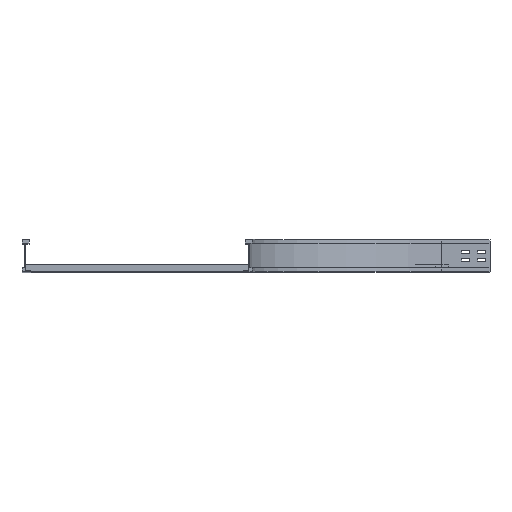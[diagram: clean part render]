
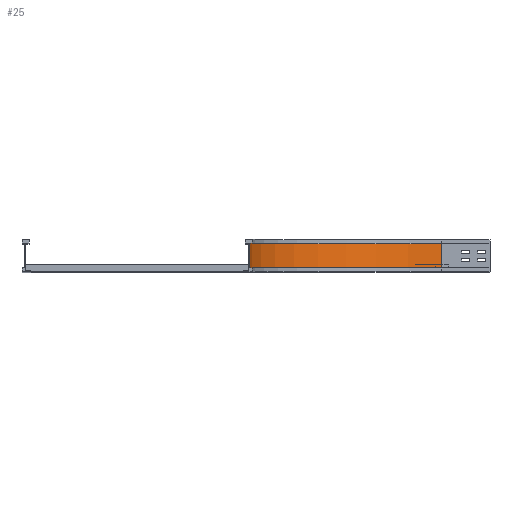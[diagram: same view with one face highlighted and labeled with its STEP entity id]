
A CAD part, top view. The second image highlights one B-rep face of the part: STEP entity #25.
In plain terms, the highlighted cylindrical face has radius 600 mm (diameter 1200 mm), a partial arc.
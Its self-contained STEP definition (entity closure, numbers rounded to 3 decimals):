
#25 = ADVANCED_FACE ( 'NONE', ( #3798 ), #1202, .F. ) ;
#200 = CARTESIAN_POINT ( 'NONE',  ( -9., 12., -150. ) ) ;
#212 = CARTESIAN_POINT ( 'NONE',  ( 591., 88., -150. ) ) ;
#366 = ORIENTED_EDGE ( 'NONE', *, *, #1870, .F. ) ;
#472 = ORIENTED_EDGE ( 'NONE', *, *, #2179, .T. ) ;
#491 = DIRECTION ( 'NONE',  ( 0., -1., 0. ) ) ;
#514 = VERTEX_POINT ( 'NONE', #4610 ) ;
#635 = AXIS2_PLACEMENT_3D ( 'NONE', #2628, #3699, #2260 ) ;
#890 = EDGE_CURVE ( 'NONE', #1552, #514, #3340, .T. ) ;
#910 = LINE ( 'NONE', #1457, #4431 ) ;
#1202 = CYLINDRICAL_SURFACE ( 'NONE', #635, 600. ) ;
#1457 = CARTESIAN_POINT ( 'NONE',  ( 591., 12., -750. ) ) ;
#1520 = CARTESIAN_POINT ( 'NONE',  ( 591., 12., -150. ) ) ;
#1552 = VERTEX_POINT ( 'NONE', #2479 ) ;
#1740 = CARTESIAN_POINT ( 'NONE',  ( -9., 12., -150. ) ) ;
#1783 = ORIENTED_EDGE ( 'NONE', *, *, #890, .F. ) ;
#1799 = ORIENTED_EDGE ( 'NONE', *, *, #4241, .T. ) ;
#1870 = EDGE_CURVE ( 'NONE', #1918, #1552, #3525, .T. ) ;
#1918 = VERTEX_POINT ( 'NONE', #1740 ) ;
#2179 = EDGE_CURVE ( 'NONE', #1918, #4724, #2701, .T. ) ;
#2260 = DIRECTION ( 'NONE',  ( 0., 0., -1. ) ) ;
#2479 = CARTESIAN_POINT ( 'NONE',  ( -9., 88., -150. ) ) ;
#2628 = CARTESIAN_POINT ( 'NONE',  ( 591., 0., -150. ) ) ;
#2701 = CIRCLE ( 'NONE', #4301, 600. ) ;
#2791 = DIRECTION ( 'NONE',  ( 0., 1., 0. ) ) ;
#2981 = CARTESIAN_POINT ( 'NONE',  ( 591., 12., -750. ) ) ;
#3340 = CIRCLE ( 'NONE', #4563, 600. ) ;
#3494 = DIRECTION ( 'NONE',  ( -1., 0., 0. ) ) ;
#3525 = LINE ( 'NONE', #200, #4617 ) ;
#3699 = DIRECTION ( 'NONE',  ( 0., -1., 0. ) ) ;
#3779 = DIRECTION ( 'NONE',  ( -1., 0., 0. ) ) ;
#3798 = FACE_OUTER_BOUND ( 'NONE', #4147, .T. ) ;
#4147 = EDGE_LOOP ( 'NONE', ( #1783, #366, #472, #1799 ) ) ;
#4237 = DIRECTION ( 'NONE',  ( 0., -1., 0. ) ) ;
#4241 = EDGE_CURVE ( 'NONE', #4724, #514, #910, .T. ) ;
#4301 = AXIS2_PLACEMENT_3D ( 'NONE', #1520, #4237, #3494 ) ;
#4326 = DIRECTION ( 'NONE',  ( 0., 1., 0. ) ) ;
#4431 = VECTOR ( 'NONE', #4326, 1000. ) ;
#4563 = AXIS2_PLACEMENT_3D ( 'NONE', #212, #491, #3779 ) ;
#4610 = CARTESIAN_POINT ( 'NONE',  ( 591., 88., -750. ) ) ;
#4617 = VECTOR ( 'NONE', #2791, 1000. ) ;
#4724 = VERTEX_POINT ( 'NONE', #2981 ) ;
